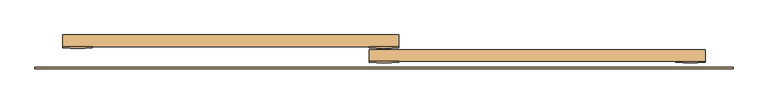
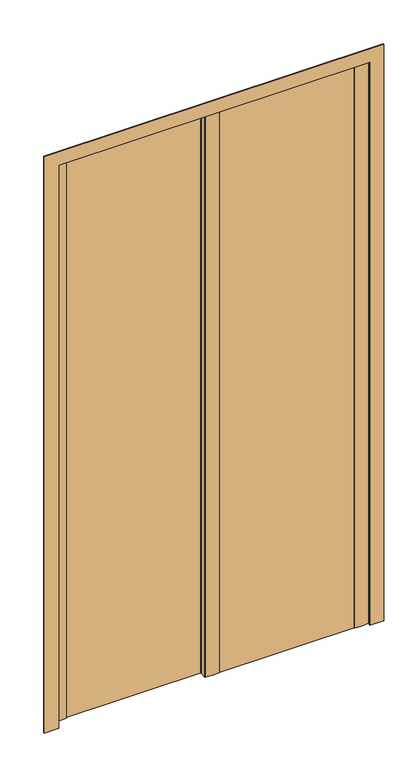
"""IFC4 building model written with IfcOpenShell, lengths in millimetres: door geometry, Portes - Placard coulissante - 2 panneaux - Placard coulissante - 2 panneaux 1.10."""

from ifc_helpers import new_model, si_unit, point, frame, frame_2d, origin, origin_with_axes, place, context, project, spatial, polyline, circle_curve, trimmed, segment, composite_curve, outline, extrude, source, transform, mapped, element, save


def door_42d56233(model_context):
    return source(origin(), model_context, "Body", "SweptSolid", [
        extrude(outline(composite_curve([segment(polyline([(575.0, 10.0), (575.0, 8.0)]), True, "CONTINUOUS"), segment(trimmed(circle_curve(frame_2d((550.0, 221.8603852)), 215.3166607), [point((575.0, 8.0))], [point((525.0, 8.0))], False, "CARTESIAN"), True, "CONTINUOUS"), segment(polyline([(525.0, 8.0), (525.0, 10.0), (575.0, 10.0)]), True, "CONTINUOUS")], self_intersect=False)), origin_with_axes(), (0.0, 0.0, 1.0), 2100.0),
        extrude(outline(composite_curve([segment(polyline([(575.0, 35.0), (575.0, 33.0)]), True, "CONTINUOUS"), segment(trimmed(circle_curve(frame_2d((550.0, 246.8603852)), 215.3166607), [point((575.0, 33.0))], [point((525.0, 33.0))], False, "CARTESIAN"), True, "CONTINUOUS"), segment(polyline([(525.0, 33.0), (525.0, 35.0), (575.0, 35.0)]), True, "CONTINUOUS")], self_intersect=False)), origin_with_axes(), (0.0, 0.0, 1.0), 2100.0),
        extrude(outline(composite_curve([segment(polyline([(50.0, 35.0), (50.0, 33.0)]), True, "CONTINUOUS"), segment(trimmed(circle_curve(frame_2d((25.0, 246.8603852)), 215.3166607), [point((50.0, 33.0))], [point((0.0, 33.0))], False, "CARTESIAN"), True, "CONTINUOUS"), segment(polyline([(0.0, 33.0), (0.0, 35.0), (50.0, 35.0)]), True, "CONTINUOUS")], self_intersect=False)), origin_with_axes(), (0.0, 0.0, 1.0), 2100.0),
        extrude(outline(polyline([(0.0, -48.0), (0.0, 2.0), (2098.0, 2.0), (2098.0, 1098.0), (0.0, 1098.0), (0.0, 1148.0), (2148.0, 1148.0), (2148.0, -48.0), (0.0, -48.0)])), frame((0.0, -3.0, 0.0), z_axis=(0.0, 1.0, 0.0), x_axis=(0.0, 0.0, 1.0)), (0.0, 0.0, 1.0), 3.0),
        extrude(outline(polyline([(1100.0, 10.0), (525.0, 10.0), (525.0, 30.0), (1100.0, 30.0), (1100.0, 10.0)])), origin_with_axes(), (0.0, 0.0, 1.0), 2100.0),
        extrude(outline(polyline([(575.0, 35.0), (0.0, 35.0), (0.0, 55.0), (575.0, 55.0), (575.0, 35.0)])), origin_with_axes(), (0.0, 0.0, 1.0), 2100.0),
        extrude(outline(composite_curve([segment(polyline([(1100.0, 10.0), (1100.0, 8.0)]), True, "CONTINUOUS"), segment(trimmed(circle_curve(frame_2d((1075.0, 221.8603852)), 215.3166607), [point((1100.0, 8.0))], [point((1050.0, 8.0))], False, "CARTESIAN"), True, "CONTINUOUS"), segment(polyline([(1050.0, 8.0), (1050.0, 10.0), (1100.0, 10.0)]), True, "CONTINUOUS")], self_intersect=False)), origin_with_axes(), (0.0, 0.0, 1.0), 2100.0),
    ])


if __name__ == "__main__":
    model = new_model("IFC4")
    model_context = context("Model", 3, world=origin())
    ifc_project = project(units=[si_unit("LENGTHUNIT", "METRE", prefix="MILLI")], contexts=[model_context])
    site = spatial("IfcSite", under=ifc_project)
    building = spatial("IfcBuilding", under=site)
    placement = place(None, origin())
    door_shape = door_42d56233(model_context)
    element("IfcDoor", 1, ObjectType="Portes - Placard coulissante - 2 panneaux - Placard coulissante - 2 panneaux 1.10", at=placement, inside=building, context=model_context, shape_type="MappedRepresentation", body=[
        mapped(door_shape, transform((0.0, 0.0, 0.0), x_axis=(1.0, 0.0, 0.0), y_axis=(0.0, 1.0, 0.0), z_axis=(0.0, 0.0, 1.0))),
    ])
    save(model, "model.ifc")
